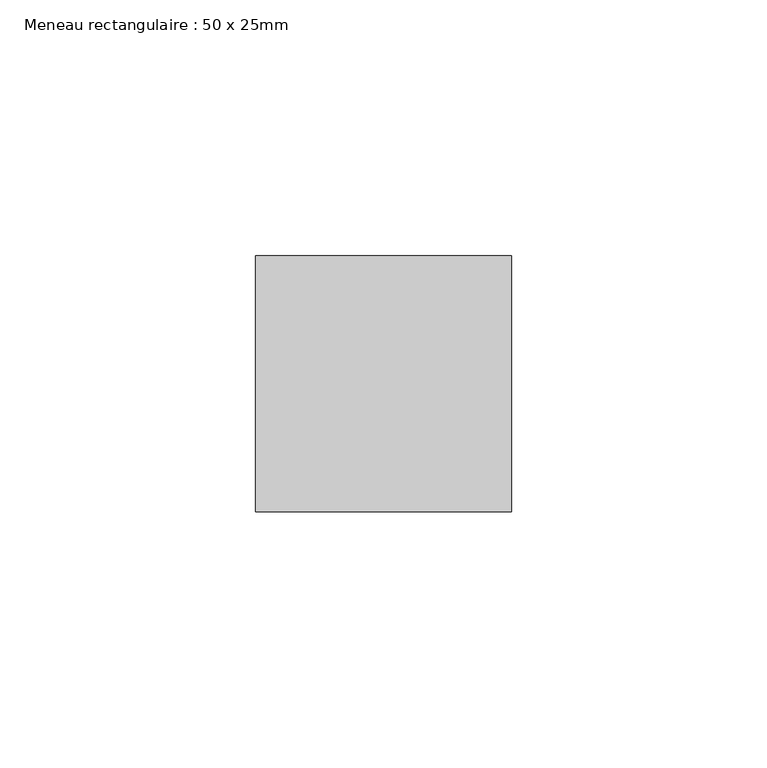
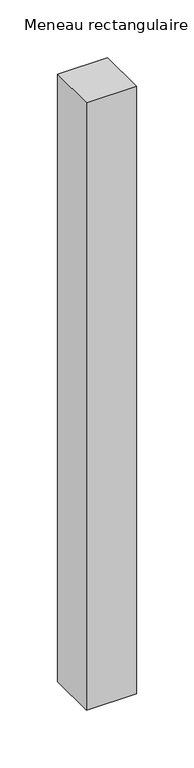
"""IFC4 building model written with IfcOpenShell, lengths in millimetres: member geometry, Meneau rectangulaire : 50 x 25mm."""

from ifc_helpers import new_model, si_unit, frame, origin, place, context, project, spatial, polyline, outline, extrude, source, transform, mapped, element, save


def meneau_rectangulaire_50_x_25mm_d6d50710(model_context):
    return source(origin(), model_context, "Body", "SweptSolid", [
        extrude(outline(polyline([(0.0, 0.0), (0.0, -50.0), (-50.0, -50.0), (-50.0, 0.0), (0.0, 0.0)])), frame((0.0, 0.0, -642.5269779), z_axis=(0.0, 0.0, 1.0), x_axis=(1.0, 0.0, 0.0)), (0.0, 0.0, 1.0), 642.5269779),
    ])


if __name__ == "__main__":
    model = new_model("IFC4")
    model_context = context("Model", 3, world=origin())
    ifc_project = project(units=[si_unit("LENGTHUNIT", "METRE", prefix="MILLI")], contexts=[model_context])
    site = spatial("IfcSite", under=ifc_project)
    building = spatial("IfcBuilding", under=site)
    placement = place(None, origin())
    meneau_rectangulaire_50_x_25mm_shape = meneau_rectangulaire_50_x_25mm_d6d50710(model_context)
    element("IfcMember", 1, ObjectType="Meneau rectangulaire : 50 x 25mm", at=placement, inside=building, context=model_context, shape_type="MappedRepresentation", body=[
        mapped(meneau_rectangulaire_50_x_25mm_shape, transform((0.0, 0.0, 0.0), x_axis=(1.0, 0.0, 0.0), y_axis=(0.0, 1.0, 0.0), z_axis=(0.0, 0.0, 1.0))),
    ])
    save(model, "model.ifc")
